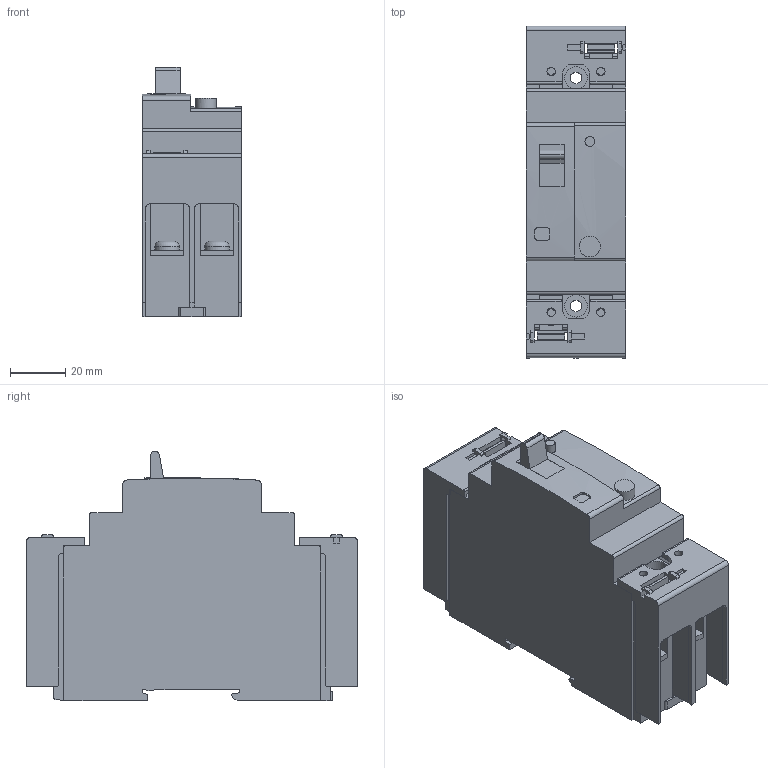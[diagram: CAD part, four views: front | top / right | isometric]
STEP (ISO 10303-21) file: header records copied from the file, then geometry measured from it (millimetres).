
FILE_DESCRIPTION (( 'STEP AP214' ), '1' );
FILE_NAME ('EW50RBGU-2P.STEP', '2015-01-27T06:30:21', ( '川崎工場' ), ( '富士電機株式会社' ), 'SwSTEP 2.0', 'SolidWorks 2014', '' );
FILE_SCHEMA (( 'AUTOMOTIVE_DESIGN' ));
Length unit declared in the file: millimetre
Products named in the file (8): EW50RBGU-2P_SWITCH_ON.; BW9BTBA-S2; EW50RBGU-2P_Screw_Asm; EW50RBGU-2P_CASE.; Screw_M5_L14; EW50RBGU-2P; EW50RBGU-2P_Terminal_Plate_Asm; BW32SBG-2P_Terminal_Plate1
Assembly tree (14 placements, depth 3):
  EW50RBGU-2P
    EW50RBGU-2P_CASE.
    EW50RBGU-2P_SWITCH_ON.
    EW50RBGU-2P_Terminal_Plate_Asm
      BW32SBG-2P_Terminal_Plate1  x4
    EW50RBGU-2P_Screw_Asm
      Screw_M5_L14  x4
    BW9BTBA-S2  x2
Bounding box: 36 x 120 x 90.2 mm (x, y, z)
Volume: 236833.2 mm3; surface area: 52240.3 mm2
Topology: 12 solids, 12 shells, 472 faces, 1321 edges, 874 vertices
Faces by surface type: plane 341, cylinder 123, cone 4, torus 4
Full cylindrical faces by diameter (mm): 3 x4, 3.5 x1, 4.2 x2, 5 x4, 6 x4, 7.5 x1, 8.1 x2
Entity records: 9247 total; most frequent: CARTESIAN_POINT 1772, ORIENTED_EDGE 1514, DIRECTION 1467, EDGE_CURVE 757, LINE 589, VECTOR 589, VERTEX_POINT 508, AXIS2_PLACEMENT_3D 439
